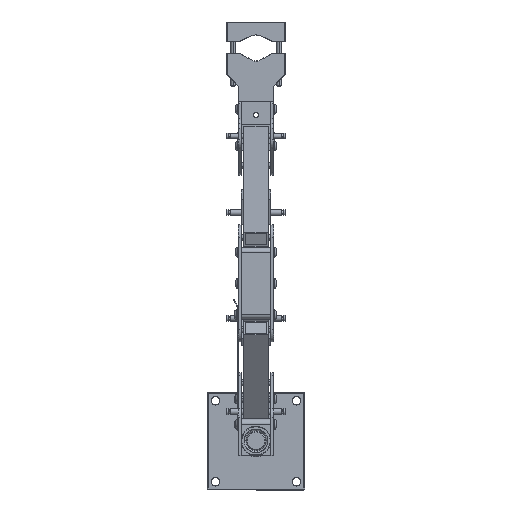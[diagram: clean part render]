
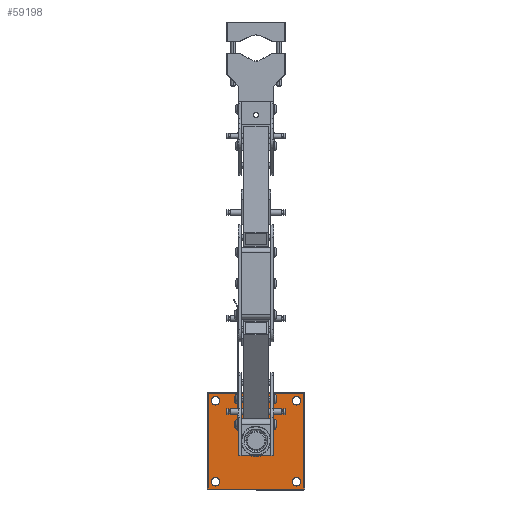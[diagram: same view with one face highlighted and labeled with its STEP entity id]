
A CAD part, top view. The second image highlights one B-rep face of the part: STEP entity #59198.
In plain terms, the highlighted planar face has unit normal (0, 0, 1).
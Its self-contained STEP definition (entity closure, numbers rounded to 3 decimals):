
#20 = DIRECTION ( 'NONE',  ( 0., 0., -1. ) ) ;
#1079 = DIRECTION ( 'NONE',  ( 1., 0., 0. ) ) ;
#1659 = VERTEX_POINT ( 'NONE', #47958 ) ;
#2152 = EDGE_CURVE ( 'NONE', #12310, #62113, #61242, .T. ) ;
#2880 = FACE_BOUND ( 'NONE', #55479, .T. ) ;
#3552 = DIRECTION ( 'NONE',  ( 0., -1., 0. ) ) ;
#3680 = EDGE_LOOP ( 'NONE', ( #58708, #16208, #26164, #47338 ) ) ;
#3840 = VECTOR ( 'NONE', #44750, 1000. ) ;
#4430 = DIRECTION ( 'NONE',  ( 0., 0., -1. ) ) ;
#4597 = DIRECTION ( 'NONE',  ( 0., -1., 0. ) ) ;
#5562 = VECTOR ( 'NONE', #1079, 1000. ) ;
#6022 = CARTESIAN_POINT ( 'NONE',  ( 97.701, 154.308, -44.317 ) ) ;
#6047 = EDGE_CURVE ( 'NONE', #45289, #26584, #37137, .T. ) ;
#6080 = FACE_BOUND ( 'NONE', #34693, .T. ) ;
#6402 = CARTESIAN_POINT ( 'NONE',  ( 97.701, 154.308, -44.317 ) ) ;
#6892 = CARTESIAN_POINT ( 'NONE',  ( 188.201, 63.808, -44.317 ) ) ;
#7538 = EDGE_CURVE ( 'NONE', #38716, #62217, #57599, .T. ) ;
#7711 = FACE_BOUND ( 'NONE', #54134, .T. ) ;
#7766 = DIRECTION ( 'NONE',  ( 0., -1., 0. ) ) ;
#9784 = LINE ( 'NONE', #59609, #5562 ) ;
#9841 = DIRECTION ( 'NONE',  ( 0., 0., 1. ) ) ;
#10737 = CARTESIAN_POINT ( 'NONE',  ( 90.201, 161.808, -44.317 ) ) ;
#10765 = CARTESIAN_POINT ( 'NONE',  ( 97.701, 71.308, -44.317 ) ) ;
#10832 = FACE_OUTER_BOUND ( 'NONE', #3680, .T. ) ;
#10944 = DIRECTION ( 'NONE',  ( 0., 0., 1. ) ) ;
#11864 = CARTESIAN_POINT ( 'NONE',  ( 180.701, 149.858, -44.317 ) ) ;
#12310 = VERTEX_POINT ( 'NONE', #49928 ) ;
#12358 = EDGE_CURVE ( 'NONE', #18383, #34057, #12361, .T. ) ;
#12361 = CIRCLE ( 'NONE', #22663, 4.45 ) ;
#13116 = CARTESIAN_POINT ( 'NONE',  ( 180.701, 154.308, -44.317 ) ) ;
#13178 = VECTOR ( 'NONE', #22559, 1000. ) ;
#14076 = FACE_BOUND ( 'NONE', #36152, .T. ) ;
#14092 = DIRECTION ( 'NONE',  ( 0., 0., -1. ) ) ;
#14774 = CARTESIAN_POINT ( 'NONE',  ( 139.201, 122.808, -44.317 ) ) ;
#15107 = EDGE_CURVE ( 'NONE', #62217, #56438, #40510, .T. ) ;
#16208 = ORIENTED_EDGE ( 'NONE', *, *, #7538, .T. ) ;
#16305 = CARTESIAN_POINT ( 'NONE',  ( 89.201, 162.808, -44.317 ) ) ;
#16919 = CIRCLE ( 'NONE', #55966, 4.45 ) ;
#17234 = ORIENTED_EDGE ( 'NONE', *, *, #19108, .F. ) ;
#17765 = ORIENTED_EDGE ( 'NONE', *, *, #38078, .T. ) ;
#17830 = CIRCLE ( 'NONE', #36971, 10. ) ;
#18383 = VERTEX_POINT ( 'NONE', #23176 ) ;
#18482 = VERTEX_POINT ( 'NONE', #36291 ) ;
#19108 = EDGE_CURVE ( 'NONE', #36866, #1659, #22047, .T. ) ;
#20559 = AXIS2_PLACEMENT_3D ( 'NONE', #39660, #14092, #7766 ) ;
#21242 = AXIS2_PLACEMENT_3D ( 'NONE', #6402, #20, #56080 ) ;
#21588 = ORIENTED_EDGE ( 'NONE', *, *, #52409, .T. ) ;
#22047 = CIRCLE ( 'NONE', #56105, 10. ) ;
#22436 = DIRECTION ( 'NONE',  ( 0., -1., 0. ) ) ;
#22534 = CIRCLE ( 'NONE', #21242, 4.45 ) ;
#22559 = DIRECTION ( 'NONE',  ( 0., 1., 0. ) ) ;
#22663 = AXIS2_PLACEMENT_3D ( 'NONE', #43518, #37101, #30755 ) ;
#22695 = PLANE ( 'NONE',  #62127 ) ;
#23176 = CARTESIAN_POINT ( 'NONE',  ( 97.701, 66.858, -44.317 ) ) ;
#23504 = CIRCLE ( 'NONE', #59069, 4.45 ) ;
#24054 = VECTOR ( 'NONE', #27737, 1000. ) ;
#24339 = EDGE_CURVE ( 'NONE', #34057, #18383, #16919, .T. ) ;
#24739 = CARTESIAN_POINT ( 'NONE',  ( 97.701, 75.758, -44.317 ) ) ;
#25111 = CIRCLE ( 'NONE', #44932, 4.45 ) ;
#25129 = EDGE_LOOP ( 'NONE', ( #45165, #47919 ) ) ;
#26164 = ORIENTED_EDGE ( 'NONE', *, *, #15107, .T. ) ;
#26584 = VERTEX_POINT ( 'NONE', #11864 ) ;
#27737 = DIRECTION ( 'NONE',  ( 0., -1., 0. ) ) ;
#28815 = DIRECTION ( 'NONE',  ( 0., 0., 1. ) ) ;
#28819 = ORIENTED_EDGE ( 'NONE', *, *, #6047, .T. ) ;
#28939 = CARTESIAN_POINT ( 'NONE',  ( 188.201, 162.808, -44.317 ) ) ;
#30724 = EDGE_CURVE ( 'NONE', #45975, #38716, #35333, .T. ) ;
#30755 = DIRECTION ( 'NONE',  ( 0., -1., 0. ) ) ;
#30804 = AXIS2_PLACEMENT_3D ( 'NONE', #53479, #47080, #40677 ) ;
#30873 = EDGE_CURVE ( 'NONE', #56438, #45975, #9784, .T. ) ;
#34057 = VERTEX_POINT ( 'NONE', #24739 ) ;
#34072 = CARTESIAN_POINT ( 'NONE',  ( 90.201, 162.808, -44.317 ) ) ;
#34693 = EDGE_LOOP ( 'NONE', ( #21588, #28819 ) ) ;
#35204 = CARTESIAN_POINT ( 'NONE',  ( 139.201, 112.808, -44.317 ) ) ;
#35333 = LINE ( 'NONE', #28939, #13178 ) ;
#36152 = EDGE_LOOP ( 'NONE', ( #17234, #42777 ) ) ;
#36244 = CARTESIAN_POINT ( 'NONE',  ( 97.701, 149.858, -44.317 ) ) ;
#36291 = CARTESIAN_POINT ( 'NONE',  ( 97.701, 158.758, -44.317 ) ) ;
#36528 = CARTESIAN_POINT ( 'NONE',  ( 139.201, 112.808, -44.317 ) ) ;
#36866 = VERTEX_POINT ( 'NONE', #14774 ) ;
#36971 = AXIS2_PLACEMENT_3D ( 'NONE', #35204, #28815, #22436 ) ;
#37101 = DIRECTION ( 'NONE',  ( 0., 0., -1. ) ) ;
#37137 = CIRCLE ( 'NONE', #30804, 4.45 ) ;
#37809 = CARTESIAN_POINT ( 'NONE',  ( 180.701, 158.758, -44.317 ) ) ;
#38078 = EDGE_CURVE ( 'NONE', #58819, #18482, #22534, .T. ) ;
#38716 = VERTEX_POINT ( 'NONE', #49040 ) ;
#39660 = CARTESIAN_POINT ( 'NONE',  ( 180.701, 71.308, -44.317 ) ) ;
#40510 = LINE ( 'NONE', #34072, #24054 ) ;
#40677 = DIRECTION ( 'NONE',  ( 0., -1., 0. ) ) ;
#42777 = ORIENTED_EDGE ( 'NONE', *, *, #47467, .F. ) ;
#43381 = EDGE_CURVE ( 'NONE', #18482, #58819, #25111, .T. ) ;
#43518 = CARTESIAN_POINT ( 'NONE',  ( 97.701, 71.308, -44.317 ) ) ;
#43791 = DIRECTION ( 'NONE',  ( 0., -1., 0. ) ) ;
#44311 = FACE_BOUND ( 'NONE', #25129, .T. ) ;
#44750 = DIRECTION ( 'NONE',  ( -1., 0., 0. ) ) ;
#44932 = AXIS2_PLACEMENT_3D ( 'NONE', #6022, #62121, #55692 ) ;
#45165 = ORIENTED_EDGE ( 'NONE', *, *, #12358, .T. ) ;
#45289 = VERTEX_POINT ( 'NONE', #37809 ) ;
#45423 = ORIENTED_EDGE ( 'NONE', *, *, #2152, .T. ) ;
#45775 = CARTESIAN_POINT ( 'NONE',  ( 180.701, 66.858, -44.317 ) ) ;
#45975 = VERTEX_POINT ( 'NONE', #6892 ) ;
#46553 = AXIS2_PLACEMENT_3D ( 'NONE', #13116, #59841, #53322 ) ;
#47080 = DIRECTION ( 'NONE',  ( 0., 0., -1. ) ) ;
#47338 = ORIENTED_EDGE ( 'NONE', *, *, #30873, .T. ) ;
#47467 = EDGE_CURVE ( 'NONE', #1659, #36866, #17830, .T. ) ;
#47919 = ORIENTED_EDGE ( 'NONE', *, *, #24339, .T. ) ;
#47958 = CARTESIAN_POINT ( 'NONE',  ( 139.201, 102.808, -44.317 ) ) ;
#49040 = CARTESIAN_POINT ( 'NONE',  ( 188.201, 161.808, -44.317 ) ) ;
#49928 = CARTESIAN_POINT ( 'NONE',  ( 180.701, 75.758, -44.317 ) ) ;
#50191 = DIRECTION ( 'NONE',  ( 0., 0., -1. ) ) ;
#50584 = ORIENTED_EDGE ( 'NONE', *, *, #43381, .T. ) ;
#51138 = CARTESIAN_POINT ( 'NONE',  ( 89.201, 161.808, -44.317 ) ) ;
#52409 = EDGE_CURVE ( 'NONE', #26584, #45289, #59449, .T. ) ;
#53322 = DIRECTION ( 'NONE',  ( 0., -1., 0. ) ) ;
#53479 = CARTESIAN_POINT ( 'NONE',  ( 180.701, 154.308, -44.317 ) ) ;
#54134 = EDGE_LOOP ( 'NONE', ( #17765, #50584 ) ) ;
#54429 = CARTESIAN_POINT ( 'NONE',  ( 90.201, 63.808, -44.317 ) ) ;
#55479 = EDGE_LOOP ( 'NONE', ( #57416, #45423 ) ) ;
#55692 = DIRECTION ( 'NONE',  ( 0., -1., 0. ) ) ;
#55966 = AXIS2_PLACEMENT_3D ( 'NONE', #10765, #4430, #60575 ) ;
#56080 = DIRECTION ( 'NONE',  ( 0., -1., 0. ) ) ;
#56105 = AXIS2_PLACEMENT_3D ( 'NONE', #36528, #10944, #4597 ) ;
#56438 = VERTEX_POINT ( 'NONE', #54429 ) ;
#56669 = CARTESIAN_POINT ( 'NONE',  ( 180.701, 71.308, -44.317 ) ) ;
#56903 = EDGE_CURVE ( 'NONE', #62113, #12310, #23504, .T. ) ;
#57416 = ORIENTED_EDGE ( 'NONE', *, *, #56903, .T. ) ;
#57599 = LINE ( 'NONE', #51138, #3840 ) ;
#58708 = ORIENTED_EDGE ( 'NONE', *, *, #30724, .T. ) ;
#58819 = VERTEX_POINT ( 'NONE', #36244 ) ;
#59069 = AXIS2_PLACEMENT_3D ( 'NONE', #56669, #50191, #43791 ) ;
#59198 = ADVANCED_FACE ( 'NONE', ( #44311, #2880, #6080, #7711, #10832, #14076 ), #22695, .T. ) ;
#59449 = CIRCLE ( 'NONE', #46553, 4.45 ) ;
#59609 = CARTESIAN_POINT ( 'NONE',  ( 189.201, 63.808, -44.317 ) ) ;
#59841 = DIRECTION ( 'NONE',  ( 0., 0., -1. ) ) ;
#60575 = DIRECTION ( 'NONE',  ( 0., -1., 0. ) ) ;
#61242 = CIRCLE ( 'NONE', #20559, 4.45 ) ;
#62113 = VERTEX_POINT ( 'NONE', #45775 ) ;
#62121 = DIRECTION ( 'NONE',  ( 0., 0., -1. ) ) ;
#62127 = AXIS2_PLACEMENT_3D ( 'NONE', #16305, #9841, #3552 ) ;
#62217 = VERTEX_POINT ( 'NONE', #10737 ) ;
